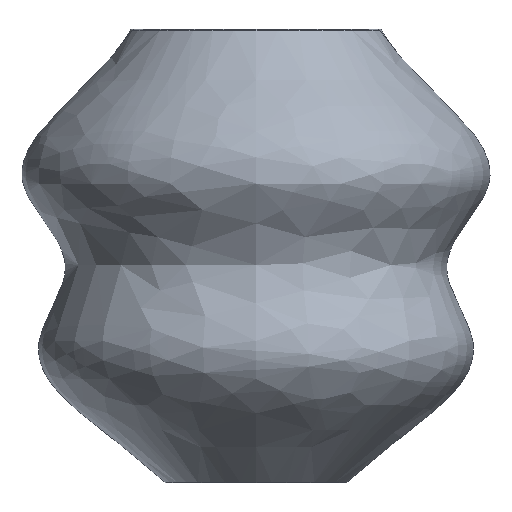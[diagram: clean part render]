
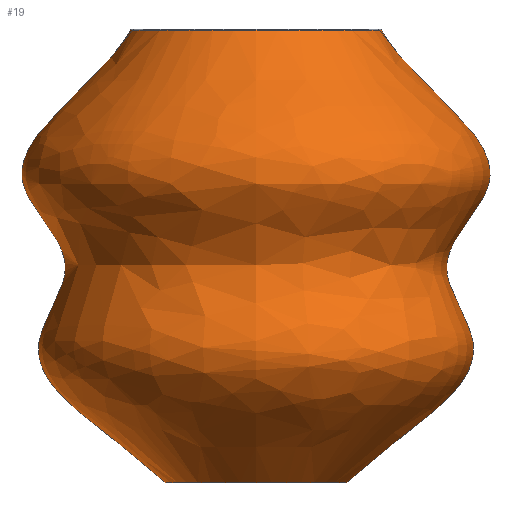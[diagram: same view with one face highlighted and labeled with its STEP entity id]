
A CAD part, front view. The second image highlights one B-rep face of the part: STEP entity #19.
In plain terms, the highlighted free-form (B-spline) face has degree [3, 2] with [7, 5] control points.
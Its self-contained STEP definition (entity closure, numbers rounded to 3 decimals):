
#19=ADVANCED_FACE('',(#30),#157,.T.);
#30=FACE_OUTER_BOUND('',#42,.T.);
#42=EDGE_LOOP('',(#63,#64,#65,#66));
#63=ORIENTED_EDGE('',*,*,#105,.T.);
#64=ORIENTED_EDGE('',*,*,#96,.T.);
#65=ORIENTED_EDGE('',*,*,#106,.F.);
#66=ORIENTED_EDGE('',*,*,#104,.F.);
#96=EDGE_CURVE('',#148,#142,#109,.T.);
#104=EDGE_CURVE('',#149,#150,#139,.T.);
#105=EDGE_CURVE('',#149,#148,#117,.T.);
#106=EDGE_CURVE('',#150,#142,#118,.T.);
#109=B_SPLINE_CURVE_WITH_KNOTS('',3,(#5119,#5120,#5121,#5122,#5123,#5124,
#5125),.UNSPECIFIED.,.F.,.F.,(4,1,1,1,4),(0.702,103.228,
155.112,200.654,304.716),.UNSPECIFIED.);
#117=TRIMMED_CURVE($,#128,(#5187),(#5188),.T.,.CARTESIAN.);
#118=TRIMMED_CURVE($,#129,(#5190),(#5191),.T.,.CARTESIAN.);
#128=CIRCLE('',#261,69.271);
#129=CIRCLE('',#262,50.);
#139=(
BOUNDED_CURVE()
B_SPLINE_CURVE(3,(#5179,#5180,#5181,#5182,#5183,#5184,#5185),
 .UNSPECIFIED.,.F.,.F.)
B_SPLINE_CURVE_WITH_KNOTS((4,1,1,1,4),(0.702,103.228,
155.112,200.654,304.716),.UNSPECIFIED.)
CURVE()
GEOMETRIC_REPRESENTATION_ITEM()
RATIONAL_B_SPLINE_CURVE((1.,1.,1.,1.,1.,1.,1.))
REPRESENTATION_ITEM('')
);
#142=VERTEX_POINT('',#4807);
#148=VERTEX_POINT('',#4813);
#149=VERTEX_POINT('',#4814);
#150=VERTEX_POINT('',#4815);
#157=(
BOUNDED_SURFACE()
B_SPLINE_SURFACE(3,2,((#4590,#4591,#4592,#4593,#4594),(#4595,#4596,#4597,
#4598,#4599),(#4600,#4601,#4602,#4603,#4604),(#4605,#4606,#4607,#4608,#4609),
(#4610,#4611,#4612,#4613,#4614),(#4615,#4616,#4617,#4618,#4619),(#4620,
#4621,#4622,#4623,#4624)),.UNSPECIFIED.,.F.,.F.,.F.)
B_SPLINE_SURFACE_WITH_KNOTS((4,1,1,1,4),(3,2,3),(0.,103.228,155.112,
200.654,304.716),(0.,202.639,405.278),
 .UNSPECIFIED.)
GEOMETRIC_REPRESENTATION_ITEM()
RATIONAL_B_SPLINE_SURFACE(((1.,0.707,1.,0.707,1.),
(1.,0.707,1.,0.707,1.),(1.,0.707,1.,
0.707,1.),(1.,0.707,1.,0.707,1.),(1.,
0.707,1.,0.707,1.),(1.,0.707,1.,0.707,
1.),(1.,0.707,1.,0.707,1.)))
REPRESENTATION_ITEM('')
SURFACE()
);
#261=AXIS2_PLACEMENT_3D($,#5186,#285,#286);
#262=AXIS2_PLACEMENT_3D($,#5189,#287,#288);
#285=DIRECTION('',(0.,0.,-1.));
#286=DIRECTION('',(1.,0.,0.));
#287=DIRECTION('',(0.,0.,-1.));
#288=DIRECTION('',(1.,0.,0.));
#4590=CARTESIAN_POINT('',(-69.,0.,250.));
#4591=CARTESIAN_POINT('',(-69.,-69.,250.));
#4592=CARTESIAN_POINT('',(0.,-69.,250.));
#4593=CARTESIAN_POINT('',(69.,-69.,250.));
#4594=CARTESIAN_POINT('',(69.,0.,250.));
#4595=CARTESIAN_POINT('',(-82.022,0.,223.004));
#4596=CARTESIAN_POINT('',(-82.022,-82.022,223.004));
#4597=CARTESIAN_POINT('',(0.,-82.022,223.004));
#4598=CARTESIAN_POINT('',(82.022,-82.022,223.004));
#4599=CARTESIAN_POINT('',(82.022,0.,223.004));
#4600=CARTESIAN_POINT('',(-162.16,0.,179.386));
#4601=CARTESIAN_POINT('',(-162.16,-162.16,179.386));
#4602=CARTESIAN_POINT('',(0.,-162.16,179.386));
#4603=CARTESIAN_POINT('',(162.16,-162.16,179.386));
#4604=CARTESIAN_POINT('',(162.16,0.,179.386));
#4605=CARTESIAN_POINT('',(-89.845,0.,122.996));
#4606=CARTESIAN_POINT('',(-89.845,-89.845,122.996));
#4607=CARTESIAN_POINT('',(0.,-89.845,122.996));
#4608=CARTESIAN_POINT('',(89.845,-89.845,122.996));
#4609=CARTESIAN_POINT('',(89.845,0.,122.996));
#4610=CARTESIAN_POINT('',(-146.226,0.,57.524));
#4611=CARTESIAN_POINT('',(-146.226,-146.226,57.524));
#4612=CARTESIAN_POINT('',(0.,-146.226,57.524));
#4613=CARTESIAN_POINT('',(146.226,-146.226,57.524));
#4614=CARTESIAN_POINT('',(146.226,0.,57.524));
#4615=CARTESIAN_POINT('',(-76.392,0.,27.373));
#4616=CARTESIAN_POINT('',(-76.392,-76.392,27.373));
#4617=CARTESIAN_POINT('',(0.,-76.392,27.373));
#4618=CARTESIAN_POINT('',(76.392,-76.392,27.373));
#4619=CARTESIAN_POINT('',(76.392,0.,27.373));
#4620=CARTESIAN_POINT('',(-50.,0.,0.));
#4621=CARTESIAN_POINT('',(-50.,-50.,0.));
#4622=CARTESIAN_POINT('',(0.,-50.,0.));
#4623=CARTESIAN_POINT('',(50.,-50.,0.));
#4624=CARTESIAN_POINT('',(50.,0.,0.));
#4807=CARTESIAN_POINT('',(-50.,0.,0.));
#4813=CARTESIAN_POINT('',(-69.271,0.,249.449));
#4814=CARTESIAN_POINT('',(69.271,0.,249.449));
#4815=CARTESIAN_POINT('',(50.,0.,0.));
#5119=CARTESIAN_POINT('',(-69.271,0.,249.449));
#5120=CARTESIAN_POINT('',(-82.745,0.,222.609));
#5121=CARTESIAN_POINT('',(-161.906,0.,179.188));
#5122=CARTESIAN_POINT('',(-89.845,0.,122.996));
#5123=CARTESIAN_POINT('',(-146.226,0.,57.524));
#5124=CARTESIAN_POINT('',(-76.392,0.,27.373));
#5125=CARTESIAN_POINT('',(-50.,0.,0.));
#5179=CARTESIAN_POINT('',(69.271,0.,249.449));
#5180=CARTESIAN_POINT('',(82.745,0.,222.609));
#5181=CARTESIAN_POINT('',(161.906,0.,179.188));
#5182=CARTESIAN_POINT('',(89.845,0.,122.996));
#5183=CARTESIAN_POINT('',(146.226,0.,57.524));
#5184=CARTESIAN_POINT('',(76.392,0.,27.373));
#5185=CARTESIAN_POINT('',(50.,0.,0.));
#5186=CARTESIAN_POINT('',(0.,0.,249.449));
#5187=CARTESIAN_POINT('',(69.271,0.,249.449));
#5188=CARTESIAN_POINT('',(-69.271,0.,249.449));
#5189=CARTESIAN_POINT('',(0.,0.,0.));
#5190=CARTESIAN_POINT('',(50.,0.,0.));
#5191=CARTESIAN_POINT('',(-50.,0.,0.));
